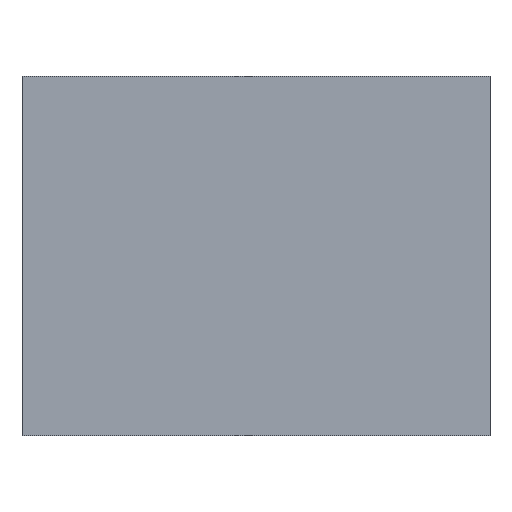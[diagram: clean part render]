
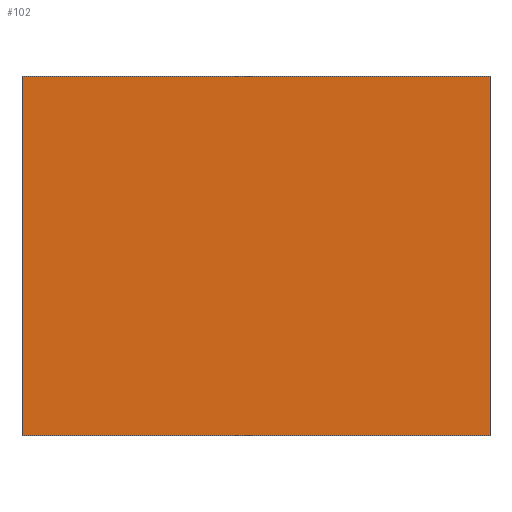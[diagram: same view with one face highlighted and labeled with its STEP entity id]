
A CAD part, left-side view. The second image highlights one B-rep face of the part: STEP entity #102.
In plain terms, the highlighted planar face has unit normal (-1, 0, 0).
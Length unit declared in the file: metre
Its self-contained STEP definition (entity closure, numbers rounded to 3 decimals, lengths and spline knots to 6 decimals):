
#28=ORIENTED_EDGE('',*,*,#47,.T.);
#29=ORIENTED_EDGE('',*,*,#44,.T.);
#30=ORIENTED_EDGE('',*,*,#41,.T.);
#31=ORIENTED_EDGE('',*,*,#38,.T.);
#38=EDGE_CURVE('',#51,#50,#58,.F.);
#41=EDGE_CURVE('',#53,#51,#61,.F.);
#44=EDGE_CURVE('',#55,#53,#64,.T.);
#47=EDGE_CURVE('',#50,#55,#67,.T.);
#50=VERTEX_POINT('',#147);
#51=VERTEX_POINT('',#149);
#53=VERTEX_POINT('',#155);
#55=VERTEX_POINT('',#161);
#58=LINE('',#148,#70);
#61=LINE('',#154,#73);
#64=LINE('',#160,#76);
#67=LINE('',#165,#79);
#70=VECTOR('',#121,1.);
#73=VECTOR('',#126,1.);
#76=VECTOR('',#131,1.);
#79=VECTOR('',#136,1.);
#84=EDGE_LOOP('',(#28,#29,#30,#31));
#90=FACE_BOUND('',#84,.T.);
#96=PLANE('',#113);
#102=ADVANCED_FACE('',(#90),#96,.T.);
#113=AXIS2_PLACEMENT_3D('',#166,#137,#138);
#121=DIRECTION('',(0.,0.,1.));
#126=DIRECTION('',(0.,-1.,0.));
#131=DIRECTION('',(0.,0.,1.));
#136=DIRECTION('',(0.,-1.,0.));
#137=DIRECTION('',(-1.,0.,0.));
#138=DIRECTION('',(0.,-1.,0.));
#147=CARTESIAN_POINT('',(0.005348,0.0061,-0.0284));
#148=CARTESIAN_POINT('',(0.005348,0.0061,-0.0284));
#149=CARTESIAN_POINT('',(0.005348,0.0061,-0.0274));
#154=CARTESIAN_POINT('',(0.005348,0.0061,-0.0274));
#155=CARTESIAN_POINT('',(0.005348,0.0048,-0.0274));
#160=CARTESIAN_POINT('',(0.005348,0.0048,-0.0284));
#161=CARTESIAN_POINT('',(0.005348,0.0048,-0.0284));
#165=CARTESIAN_POINT('',(0.005348,0.0061,-0.0284));
#166=CARTESIAN_POINT('',(0.005348,0.0061,-0.0284));
